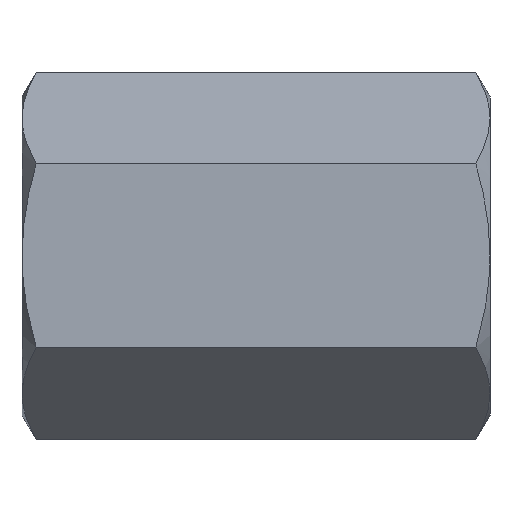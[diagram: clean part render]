
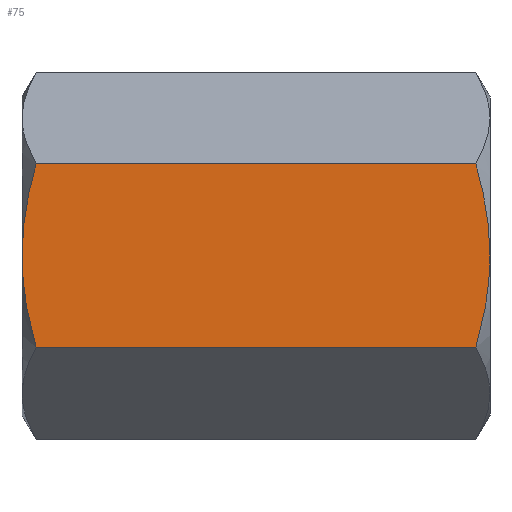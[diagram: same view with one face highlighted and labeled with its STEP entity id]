
A CAD part, top view. The second image highlights one B-rep face of the part: STEP entity #75.
In plain terms, the highlighted planar face has unit normal (0, 0, 1).
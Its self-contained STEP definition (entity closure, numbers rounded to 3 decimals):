
#75 = ADVANCED_FACE( '', ( #99 ), #100, .F. );
#99 = FACE_OUTER_BOUND( '', #150, .T. );
#100 = PLANE( '', #151 );
#150 = EDGE_LOOP( '', ( #201, #202, #203, #204, #205, #206 ) );
#151 = AXIS2_PLACEMENT_3D( '', #207, #208, #209 );
#201 = ORIENTED_EDGE( '', *, *, #362, .F. );
#202 = ORIENTED_EDGE( '', *, *, #363, .F. );
#203 = ORIENTED_EDGE( '', *, *, #364, .F. );
#204 = ORIENTED_EDGE( '', *, *, #365, .T. );
#205 = ORIENTED_EDGE( '', *, *, #366, .F. );
#206 = ORIENTED_EDGE( '', *, *, #367, .F. );
#207 = CARTESIAN_POINT( '', ( 25., 4.907, 8.5 ) );
#208 = DIRECTION( '', ( 0., 0., -1. ) );
#209 = DIRECTION( '', ( -1., 0., 0. ) );
#362 = EDGE_CURVE( '', #408, #409, #410, .T. );
#363 = EDGE_CURVE( '', #411, #408, #412, .F. );
#364 = EDGE_CURVE( '', #413, #411, #414, .F. );
#365 = EDGE_CURVE( '', #413, #415, #416, .T. );
#366 = EDGE_CURVE( '', #417, #415, #418, .T. );
#367 = EDGE_CURVE( '', #409, #417, #419, .T. );
#408 = VERTEX_POINT( '', #482 );
#409 = VERTEX_POINT( '', #483 );
#410 = LINE( '', #484, #485 );
#411 = VERTEX_POINT( '', #486 );
#412 = B_SPLINE_CURVE_WITH_KNOTS( '', 3, ( #487, #488, #489, #490, #491, #492 ), .UNSPECIFIED., .F., .F., ( 4, 2, 4 ), ( 0.009, 0.011, 0.014 ), .UNSPECIFIED. );
#413 = VERTEX_POINT( '', #493 );
#414 = B_SPLINE_CURVE_WITH_KNOTS( '', 3, ( #494, #495, #496, #497, #498, #499 ), .UNSPECIFIED., .F., .F., ( 4, 2, 4 ), ( 0.014, 0.016, 0.019 ), .UNSPECIFIED. );
#415 = VERTEX_POINT( '', #500 );
#416 = LINE( '', #501, #502 );
#417 = VERTEX_POINT( '', #503 );
#418 = B_SPLINE_CURVE_WITH_KNOTS( '', 3, ( #504, #505, #506, #507, #508, #509 ), .UNSPECIFIED., .F., .F., ( 4, 2, 4 ), ( 0.014, 0.016, 0.019 ), .UNSPECIFIED. );
#419 = B_SPLINE_CURVE_WITH_KNOTS( '', 3, ( #510, #511, #512, #513, #514, #515 ), .UNSPECIFIED., .F., .F., ( 4, 2, 4 ), ( 0.009, 0.011, 0.014 ), .UNSPECIFIED. );
#482 = CARTESIAN_POINT( '', ( 24.241, -4.907, 8.5 ) );
#483 = CARTESIAN_POINT( '', ( 0.759, -4.907, 8.5 ) );
#484 = CARTESIAN_POINT( '', ( 25., -4.907, 8.5 ) );
#485 = VECTOR( '', #698, 1000. );
#486 = CARTESIAN_POINT( '', ( 25., 0., 8.5 ) );
#487 = CARTESIAN_POINT( '', ( 24.241, -4.907, 8.5 ) );
#488 = CARTESIAN_POINT( '', ( 24.471, -4.109, 8.5 ) );
#489 = CARTESIAN_POINT( '', ( 24.665, -3.292, 8.5 ) );
#490 = CARTESIAN_POINT( '', ( 24.929, -1.654, 8.5 ) );
#491 = CARTESIAN_POINT( '', ( 25., -0.83, 8.5 ) );
#492 = CARTESIAN_POINT( '', ( 25., 0., 8.5 ) );
#493 = CARTESIAN_POINT( '', ( 24.241, 4.907, 8.5 ) );
#494 = CARTESIAN_POINT( '', ( 25., 0., 8.5 ) );
#495 = CARTESIAN_POINT( '', ( 25., 0.83, 8.5 ) );
#496 = CARTESIAN_POINT( '', ( 24.927, 1.672, 8.5 ) );
#497 = CARTESIAN_POINT( '', ( 24.661, 3.31, 8.5 ) );
#498 = CARTESIAN_POINT( '', ( 24.47, 4.114, 8.5 ) );
#499 = CARTESIAN_POINT( '', ( 24.241, 4.907, 8.5 ) );
#500 = CARTESIAN_POINT( '', ( 0.759, 4.907, 8.5 ) );
#501 = CARTESIAN_POINT( '', ( 25., 4.907, 8.5 ) );
#502 = VECTOR( '', #699, 1000. );
#503 = CARTESIAN_POINT( '', ( 0., 0., 8.5 ) );
#504 = CARTESIAN_POINT( '', ( 0., 0., 8.5 ) );
#505 = CARTESIAN_POINT( '', ( 0., 0.83, 8.5 ) );
#506 = CARTESIAN_POINT( '', ( 0.073, 1.672, 8.5 ) );
#507 = CARTESIAN_POINT( '', ( 0.339, 3.31, 8.5 ) );
#508 = CARTESIAN_POINT( '', ( 0.53, 4.114, 8.5 ) );
#509 = CARTESIAN_POINT( '', ( 0.759, 4.907, 8.5 ) );
#510 = CARTESIAN_POINT( '', ( 0.759, -4.907, 8.5 ) );
#511 = CARTESIAN_POINT( '', ( 0.529, -4.109, 8.5 ) );
#512 = CARTESIAN_POINT( '', ( 0.335, -3.292, 8.5 ) );
#513 = CARTESIAN_POINT( '', ( 0.071, -1.654, 8.5 ) );
#514 = CARTESIAN_POINT( '', ( 0., -0.83, 8.5 ) );
#515 = CARTESIAN_POINT( '', ( 0., 0., 8.5 ) );
#698 = DIRECTION( '', ( -1., 0., 0. ) );
#699 = DIRECTION( '', ( -1., 0., 0. ) );
